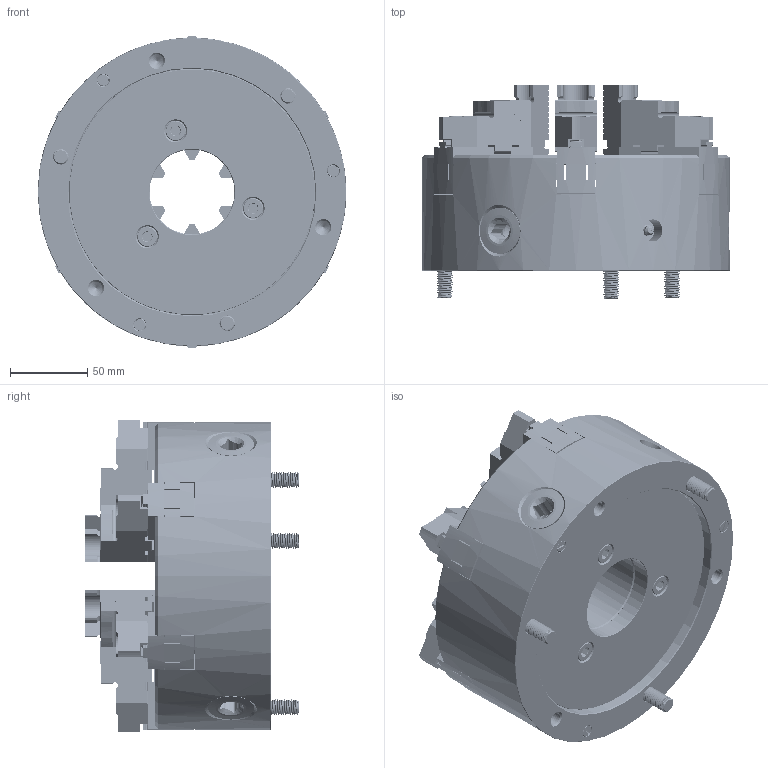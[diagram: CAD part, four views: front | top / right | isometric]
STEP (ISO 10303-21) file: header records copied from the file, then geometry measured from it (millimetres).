
FILE_DESCRIPTION (( 'STEP AP214' ), '1' );
FILE_NAME ('3-816-0800P REV A.STEP', '2024-11-18T13:56:26', ( '' ), ( '' ), 'SwSTEP 2.0', 'SolidWorks 2020', '' );
FILE_SCHEMA (( 'AUTOMOTIVE_DESIGN' ));
Length unit declared in the file: millimetre
Products named in the file (29): 3-809-906P_3-809-906P; 3-887-308P_FOR WEBSITE; 3-883-608P_TOP JAW3; 3-883-608P_TOP JAW6; 0.375-16 X0.75 SHCS_0.375-16 X0.75 SHCS; 3-885-608P_JAW6-FOR-WEBSITE; 3-885-608P_JAW3-FOR-WEBSITE; 3-891-608P_JAW1-FOR-WEBSITE; 3-883-608P_TOP JAW1; 3-885-608P_JAW2-FOR-WEBSITE; C-CK8-COVER_C-CK8-COVER; 3-885-608P_3-885-308P-JAW1; 0.375-16 X1.25 SHCS_0.375-16 X1.25 SHCS; 3-891-608P_JAW3-FOR-WEBSITE; 3-891-608P_JAW6-FOR-WEBSITE; 3-885-608P_JAW5-FOR-WEBSITE; 3-885-608P_JAW4-FOR-WEBSITE; 3-883-608P_TOP JAW5; 3-891-608P_JAW4-FOR-WEBSITE; 3-888-910P_3-888-910P; 3-883-608P_TOP JAW2; 3-899-310P_3-899-310P; 3-897-10080_3-897-10080; 3-891-608P_JAW5-FOR-WEBSITE; 3-816-0800P REV A; 3-883-608P_TOP JAW4; C-CK8-BDY6JFM_BODY-816; 3-891-608P_JAW2-FOR-WEBSITE; 3-886-308P_FOR WEBSITE
Assembly tree (46 placements, depth 3):
  3-816-0800P REV A
    C-CK8-BDY6JFM_BODY-816
    3-887-308P_FOR WEBSITE
    3-886-308P_FOR WEBSITE  x3
    C-CK8-COVER_C-CK8-COVER
    3-899-310P_3-899-310P  x3
    3-897-10080_3-897-10080  x3
    3-891-608P_JAW1-FOR-WEBSITE
      3-885-608P_3-885-308P-JAW1
      3-883-608P_TOP JAW1
      0.375-16 X1.25 SHCS_0.375-16 X1.25 SHCS
      0.375-16 X0.75 SHCS_0.375-16 X0.75 SHCS
    3-891-608P_JAW2-FOR-WEBSITE
      3-885-608P_JAW2-FOR-WEBSITE
      3-883-608P_TOP JAW2
      0.375-16 X1.25 SHCS_0.375-16 X1.25 SHCS
      0.375-16 X0.75 SHCS_0.375-16 X0.75 SHCS
    3-891-608P_JAW6-FOR-WEBSITE
      3-885-608P_JAW6-FOR-WEBSITE
      3-883-608P_TOP JAW6
      0.375-16 X1.25 SHCS_0.375-16 X1.25 SHCS
      0.375-16 X0.75 SHCS_0.375-16 X0.75 SHCS
    3-888-910P_3-888-910P  x3
    3-891-608P_JAW3-FOR-WEBSITE
      3-885-608P_JAW3-FOR-WEBSITE
      3-883-608P_TOP JAW3
      0.375-16 X1.25 SHCS_0.375-16 X1.25 SHCS
      0.375-16 X0.75 SHCS_0.375-16 X0.75 SHCS
    3-891-608P_JAW4-FOR-WEBSITE
      3-885-608P_JAW4-FOR-WEBSITE
      3-883-608P_TOP JAW4
      0.375-16 X1.25 SHCS_0.375-16 X1.25 SHCS
      0.375-16 X0.75 SHCS_0.375-16 X0.75 SHCS
    3-891-608P_JAW5-FOR-WEBSITE
      3-885-608P_JAW5-FOR-WEBSITE
      3-883-608P_TOP JAW5
      0.375-16 X1.25 SHCS_0.375-16 X1.25 SHCS
      0.375-16 X0.75 SHCS_0.375-16 X0.75 SHCS
    3-809-906P_3-809-906P
Bounding box: 200 x 138.15 x 202.17 mm (x, y, z)
Volume: 2077877 mm3; surface area: 475707.7 mm2
Topology: 40 solids, 40 shells, 4983 faces, 13427 edges, 8681 vertices
Faces by surface type: plane 2050, cylinder 1362, cone 812, bspline 637, torus 103, sphere 19
Entity records: 172533 total; most frequent: CARTESIAN_POINT 79195, ORIENTED_EDGE 20994, DIRECTION 16423, EDGE_CURVE 10497, VERTEX_POINT 6861, LINE 5881, VECTOR 5881, AXIS2_PLACEMENT_3D 5271
